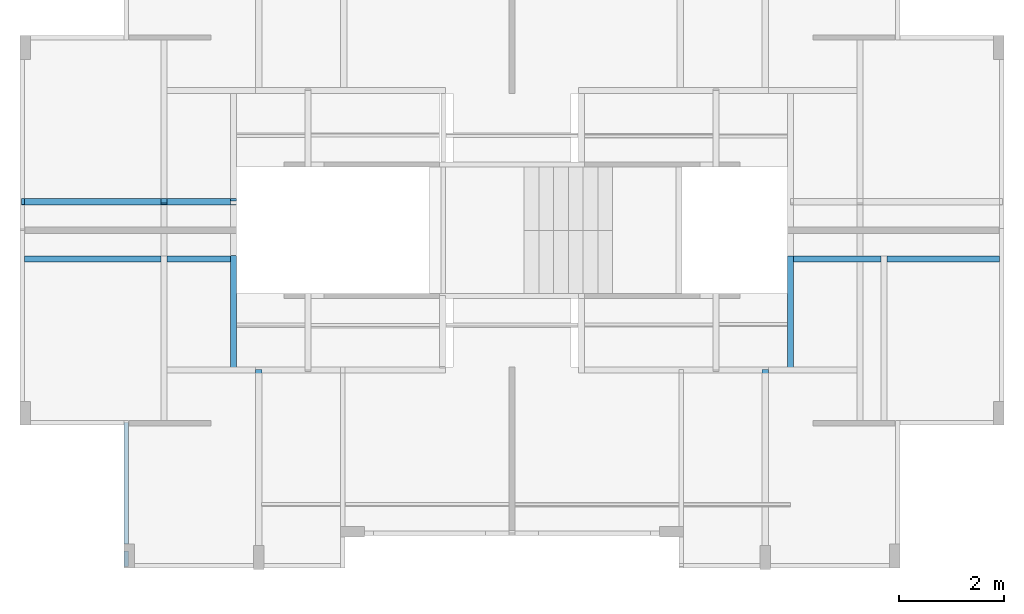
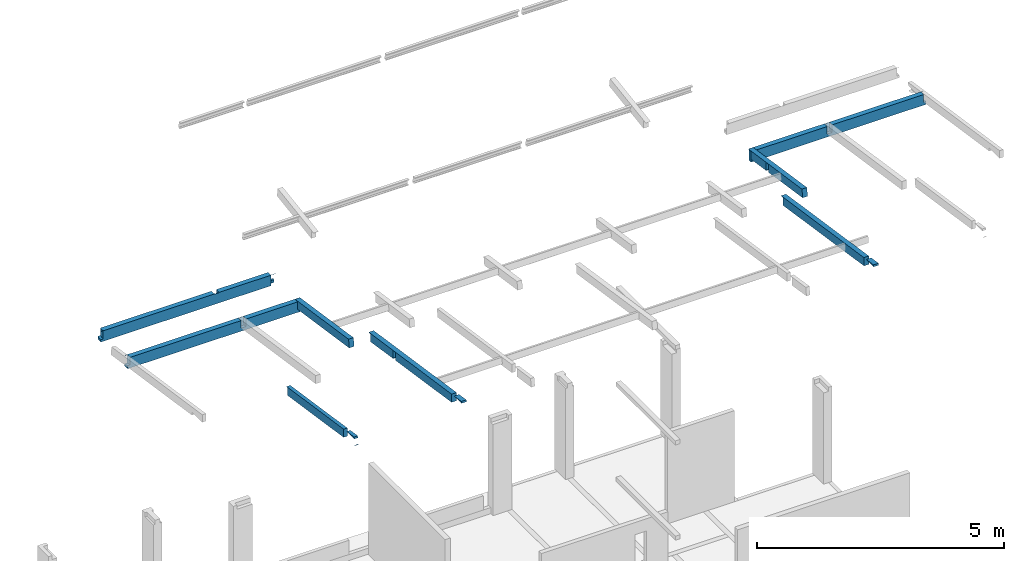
# One storey, part 8 of 9: 8 beams.
"""IFC4 building model written with IfcOpenShell, lengths in metres."""

from ifc_helpers import new_model, entity, si_unit, converted_unit, derived_unit, direction, frame, origin, place, context, subcontext, project, spatial, polygons, source, transform, mapped, material, type_object, type_shapes, element, save


model = new_model("IFC4")

# Units and contexts
model_context = context("Model", 3, precision=1e-05, world=origin(), true_north=direction((6.123031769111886e-17, 1.0)))
body_context = subcontext(model_context, "Body", "Model", "MODEL_VIEW")
ifc_project = project(units=[si_unit("LENGTHUNIT", "METRE"), si_unit("AREAUNIT", "SQUARE_METRE"), si_unit("VOLUMEUNIT", "CUBIC_METRE"), converted_unit("PLANEANGLEUNIT", "DEGREE", entity("IfcRatioMeasure", 0.017453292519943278), si_unit("PLANEANGLEUNIT", "RADIAN"), dimensions=[0, 0, 0, 0, 0, 0, 0]), si_unit("MASSUNIT", "GRAM", prefix="KILO"), derived_unit("MASSDENSITYUNIT", [(si_unit("MASSUNIT", "GRAM", prefix="KILO"), 1), (si_unit("LENGTHUNIT", "METRE"), -3)]), derived_unit("IONCONCENTRATIONUNIT", [(si_unit("MASSUNIT", "GRAM", prefix="KILO"), 1), (si_unit("LENGTHUNIT", "METRE"), -3)]), derived_unit("MOMENTOFINERTIAUNIT", [(si_unit("LENGTHUNIT", "METRE"), 4)]), si_unit("TIMEUNIT", "SECOND"), si_unit("FREQUENCYUNIT", "HERTZ"), si_unit("THERMODYNAMICTEMPERATUREUNIT", "DEGREE_CELSIUS"), derived_unit("THERMALTRANSMITTANCEUNIT", [(si_unit("MASSUNIT", "GRAM", prefix="KILO"), 1), (si_unit("THERMODYNAMICTEMPERATUREUNIT", "KELVIN"), -1), (si_unit("TIMEUNIT", "SECOND"), -3)]), derived_unit("THERMALCONDUCTANCEUNIT", [(si_unit("MASSUNIT", "GRAM", prefix="KILO"), 1), (si_unit("THERMODYNAMICTEMPERATUREUNIT", "KELVIN"), -1), (si_unit("TIMEUNIT", "SECOND"), -3), (si_unit("LENGTHUNIT", "METRE"), 1)]), derived_unit("VOLUMETRICFLOWRATEUNIT", [(si_unit("LENGTHUNIT", "METRE"), 3), (si_unit("TIMEUNIT", "SECOND"), -1)]), derived_unit("MASSFLOWRATEUNIT", [(si_unit("MASSUNIT", "GRAM", prefix="KILO"), 1), (si_unit("TIMEUNIT", "SECOND"), -1)]), derived_unit("ROTATIONALFREQUENCYUNIT", [(si_unit("TIMEUNIT", "SECOND"), -1)]), si_unit("ELECTRICCURRENTUNIT", "AMPERE"), si_unit("ELECTRICVOLTAGEUNIT", "VOLT"), si_unit("POWERUNIT", "WATT"), si_unit("FORCEUNIT", "NEWTON", prefix="KILO"), si_unit("ILLUMINANCEUNIT", "LUX"), si_unit("LUMINOUSFLUXUNIT", "LUMEN"), si_unit("LUMINOUSINTENSITYUNIT", "CANDELA"), derived_unit("USERDEFINED", [(si_unit("MASSUNIT", "GRAM", prefix="KILO"), -1), (si_unit("LENGTHUNIT", "METRE"), -2), (si_unit("TIMEUNIT", "SECOND"), 3), (si_unit("LUMINOUSFLUXUNIT", "LUMEN"), 1)]), derived_unit("USERDEFINED", [(si_unit("MASSUNIT", "GRAM", prefix="KILO"), 1), (si_unit("TIMEUNIT", "SECOND"), -3), (si_unit("LENGTHUNIT", "METRE"), 3), (si_unit("ELECTRICCURRENTUNIT", "AMPERE"), -2)]), derived_unit("SOUNDPOWERUNIT", [(si_unit("MASSUNIT", "GRAM", prefix="KILO"), 1), (si_unit("TIMEUNIT", "SECOND"), -3), (si_unit("LENGTHUNIT", "METRE"), 2)]), derived_unit("SOUNDPRESSUREUNIT", [(si_unit("MASSUNIT", "GRAM", prefix="KILO"), 1), (si_unit("LENGTHUNIT", "METRE"), -1), (si_unit("TIMEUNIT", "SECOND"), -2)]), derived_unit("LINEARVELOCITYUNIT", [(si_unit("LENGTHUNIT", "METRE"), 1), (si_unit("TIMEUNIT", "SECOND"), -1)]), si_unit("PRESSUREUNIT", "PASCAL"), derived_unit("USERDEFINED", [(si_unit("MASSUNIT", "GRAM", prefix="KILO"), 1), (si_unit("LENGTHUNIT", "METRE"), -2), (si_unit("TIMEUNIT", "SECOND"), -2)]), derived_unit("LINEARFORCEUNIT", [(si_unit("MASSUNIT", "GRAM", prefix="KILO"), 1), (si_unit("TIMEUNIT", "SECOND"), -2)]), derived_unit("PLANARFORCEUNIT", [(si_unit("MASSUNIT", "GRAM", prefix="KILO"), 1), (si_unit("LENGTHUNIT", "METRE"), -1), (si_unit("TIMEUNIT", "SECOND"), -2)]), derived_unit("SPECIFICHEATCAPACITYUNIT", [(si_unit("THERMODYNAMICTEMPERATUREUNIT", "KELVIN"), -1), (si_unit("LENGTHUNIT", "METRE"), 2), (si_unit("TIMEUNIT", "SECOND"), -2)]), derived_unit("HEATINGVALUEUNIT", [(si_unit("LENGTHUNIT", "METRE"), 2), (si_unit("TIMEUNIT", "SECOND"), -2)]), derived_unit("VAPORPERMEABILITYUNIT", [(si_unit("LENGTHUNIT", "METRE"), -1), (si_unit("TIMEUNIT", "SECOND"), 1)]), derived_unit("DYNAMICVISCOSITYUNIT", [(si_unit("MASSUNIT", "GRAM", prefix="KILO"), 1), (si_unit("TIMEUNIT", "SECOND"), -1), (si_unit("LENGTHUNIT", "METRE"), -1)]), derived_unit("THERMALEXPANSIONCOEFFICIENTUNIT", [(si_unit("THERMODYNAMICTEMPERATUREUNIT", "KELVIN"), -1)]), derived_unit("MODULUSOFELASTICITYUNIT", [(si_unit("MASSUNIT", "GRAM", prefix="KILO"), 1), (si_unit("LENGTHUNIT", "METRE"), -1), (si_unit("TIMEUNIT", "SECOND"), -2)]), derived_unit("ISOTHERMALMOISTURECAPACITYUNIT", [(si_unit("LENGTHUNIT", "METRE"), 3), (si_unit("MASSUNIT", "GRAM", prefix="KILO"), -1)]), derived_unit("MOISTUREDIFFUSIVITYUNIT", [(si_unit("TIMEUNIT", "SECOND"), -1), (si_unit("LENGTHUNIT", "METRE"), 2)])], contexts=[model_context])

# Site, building, storey
site_placement = place(None, origin())
site = spatial("IfcSite", under=ifc_project, at=site_placement, Name="Default", CompositionType="ELEMENT")
building_placement = place(site_placement, origin())
building = spatial("IfcBuilding", under=site, at=building_placement, Name="Las nubes", CompositionType="ELEMENT")
storey_placement = place(building_placement, frame((0.0, 0.0, 2.3500000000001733)))
storey = spatial("IfcBuildingStorey", under=building, at=storey_placement, Name="PISO 2", CompositionType="ELEMENT", Elevation=2.3500000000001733)

# Beams
ifc_material = material(Name="Concrete, Cast In Situ", Category="Materials")
beam_type_1 = type_object("IfcBeamType", Name="M_Concrete-Rectangular Beam:(0.115x0.20)", PredefinedType="BEAM", material=ifc_material)
shared_shape_1 = source(origin(), body_context, "Body", "Tessellation", [
    polygons([(0.11659527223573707, 0.029668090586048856, 0.0), (0.0015952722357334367, 0.02966809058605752, 0.0), (0.0015952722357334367, 9.745804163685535e-15, -0.19778727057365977), (0.11659527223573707, 0.0, -0.19778727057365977), (0.11659527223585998, 1.4871680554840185, -0.2186249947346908), (0.11659527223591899, 2.194668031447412, -0.3247499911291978), (0.0015952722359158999, 2.1946680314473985, -0.3247499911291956), (0.11659527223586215, 1.4871680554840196, -0.4186499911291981), (0.11659527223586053, 1.4724181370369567, -0.4186499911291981), (0.1165952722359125, 2.087168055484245, -0.5108624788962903), (0.11659527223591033, 2.087168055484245, -0.3247499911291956), (0.0015952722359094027, 2.0871680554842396, -0.5108624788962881), (0.05909527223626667, 1.4724181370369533, -0.4186499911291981), (0.05909527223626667, 1.387168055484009, -0.4058624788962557), (0.11659527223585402, 1.3871680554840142, -0.40586247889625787), (0.001595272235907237, 2.087168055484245, -0.3247499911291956), (0.05909527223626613, 1.4871680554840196, -0.21864999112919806), (0.05909527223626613, 1.3871680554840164, -0.21864999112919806), (0.05909527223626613, 1.4871680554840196, -0.4186499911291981), (0.11659527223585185, 1.3871680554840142, -0.21864999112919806)], [[[3, 4, 1, 2]], [[7, 2, 1, 5, 6]], [[6, 5, 8, 9, 10, 11]], [[13, 19, 17, 18, 14]], [[5, 1, 4, 15, 20]], [[15, 4, 3, 12, 10, 9, 13, 14]], [[12, 3, 2, 7, 16]], [[5, 20, 17]], [[18, 17, 20]], [[6, 11, 16, 7]], [[8, 5, 17, 19]], [[9, 8, 19, 13]], [[20, 15, 14, 18]], [[11, 10, 12, 16]]], closed=True),
    polygons([(0.0015952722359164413, 2.203128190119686, -0.32604999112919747), (0.059095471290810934, 2.2033346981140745, -0.32604999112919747), (0.11659527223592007, 2.2031281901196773, -0.32604999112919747), (0.11659527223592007, 2.202168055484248, -0.32604999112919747), (0.0015952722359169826, 2.202168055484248, -0.32604999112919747), (0.11659527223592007, 2.202168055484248, -0.3258749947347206), (0.0015952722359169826, 2.202168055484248, -0.32587499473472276)], [[[5, 1, 2, 3, 4]], [[4, 6, 7, 5]], [[1, 7, 2]], [[2, 6, 3]], [[6, 2, 7]], [[5, 7, 1]], [[6, 4, 3]]], closed=True),
])
type_shapes(beam_type_1, [shared_shape_1])
beam_1_placement = place(storey_placement, frame((3.970904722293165, -9.112168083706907, 12.234749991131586)))
element("IfcBeam", 1, at=beam_1_placement, inside=storey, type_object=beam_type_1, material=ifc_material, Name="M_Concrete-Rectangular Beam:(0.115x0.20)", ObjectType="M_Concrete-Rectangular Beam:(0.115x0.20)", PredefinedType="BEAM", context=body_context, shape_type="MappedRepresentation", body=[
    mapped(shared_shape_1, transform((0.0, 0.0, 0.0), scale=1.0)),
])
beam_type_2 = type_object("IfcBeamType", Name="M_Concrete-Rectangular Beam:(0.115x0.20)", PredefinedType="BEAM", material=ifc_material)
shared_shape_2 = source(origin(), body_context, "Body", "Tessellation", [
    polygons([(0.11500000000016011, 0.029668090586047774, 2.1657342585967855e-15), (1.5593286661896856e-13, 0.029668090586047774, 2.1657342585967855e-15), (1.5593286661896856e-13, 1.0828671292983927e-15, -0.1977872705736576), (0.11500000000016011, -1.0828671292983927e-15, -0.1977872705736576), (1.6459580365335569e-13, 1.3871680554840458, -0.4058624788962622), (0.057499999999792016, 1.3871680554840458, -0.4058624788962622), (0.057499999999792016, 1.4724181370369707, -0.4186499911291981), (1.6459580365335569e-13, 1.4724181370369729, -0.4186499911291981), (1.6892727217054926e-13, 2.0871680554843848, -0.5108624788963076), (0.11500000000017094, 2.0871680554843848, -0.5108624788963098), (1.1261818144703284e-13, 2.0871680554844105, -0.32474999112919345), (0.1150000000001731, 2.0871680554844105, -0.3247499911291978), (1.6892727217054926e-13, 2.194668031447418, -0.3247499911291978), (0.1150000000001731, 2.1946680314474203, -0.3247499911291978), (1.6459580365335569e-13, 1.487168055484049, -0.21862999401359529), (1.6459580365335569e-13, 1.487168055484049, -0.4186499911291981), (0.057499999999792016, 1.487168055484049, -0.21864999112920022), (0.057499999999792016, 1.487168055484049, -0.4186499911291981), (0.057499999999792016, 1.3871680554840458, -0.21864999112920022), (1.6459580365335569e-13, 1.3871680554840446, -0.21864999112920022)], [[[1, 2, 3, 4]], [[4, 3, 5, 6, 7, 8, 9, 10]], [[10, 9, 11, 12]], [[13, 14, 12, 11]], [[2, 1, 14, 13, 15]], [[1, 4, 10, 12, 14]], [[13, 11, 9, 8, 16, 15]], [[17, 18, 7, 6, 19]], [[17, 19, 20, 15]], [[18, 17, 15, 16]], [[7, 18, 16, 8]], [[19, 6, 5, 20]], [[3, 2, 15, 20, 5]]], closed=True),
    polygons([(1.6892727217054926e-13, 2.2030682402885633, -0.32601002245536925), (0.1150000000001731, 2.2030682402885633, -0.32601002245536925), (0.1150000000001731, 2.202168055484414, -0.33201125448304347), (1.6892727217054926e-13, 2.202168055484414, -0.332011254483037), (1.6892727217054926e-13, 2.202168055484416, -0.3258749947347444), (0.1150000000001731, 2.2021680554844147, -0.32587499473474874), (1.6892727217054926e-13, 2.2021680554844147, -0.32604999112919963)], [[[1, 2, 3, 4]], [[2, 1, 5, 6]], [[3, 2, 6]], [[1, 4, 7, 5]], [[4, 3, 6, 5, 7]]], closed=True),
])
type_shapes(beam_type_2, [shared_shape_2])
beam_2_placement = place(storey_placement, frame((14.557500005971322, -9.112168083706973, 12.234749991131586)))
element("IfcBeam", 2, at=beam_2_placement, inside=storey, type_object=beam_type_2, material=ifc_material, Name="M_Concrete-Rectangular Beam:(0.115x0.20)", ObjectType="M_Concrete-Rectangular Beam:(0.115x0.20)", PredefinedType="BEAM", context=body_context, shape_type="MappedRepresentation", body=[
    mapped(shared_shape_2, transform((0.0, 0.0, 0.0), scale=1.0)),
])
beam_type_3 = type_object("IfcBeamType", Name="M_Concrete-Rectangular Beam:(0.115x0.26)", PredefinedType="BEAM", material=ifc_material)
shared_shape_3 = source(origin(), body_context, "Body", "Tessellation", [
    polygons([(2.1657342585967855e-15, 4.2231818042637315e-14, 0.2599999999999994), (2.1657342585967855e-15, 0.10749997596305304, 0.2599999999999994), (2.1657342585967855e-15, 0.11500000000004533, 0.2599999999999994), (2.1657342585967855e-15, 0.11500000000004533, 0.2588749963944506), (2.1657342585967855e-15, 0.11500000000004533, 0.2586999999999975), (5.84748249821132e-14, 0.07750000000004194, 0.2586999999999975), (2.1657342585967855e-15, 0.07750000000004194, -2.1657342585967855e-15), (2.1657342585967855e-15, 4.2231818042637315e-14, -2.1657342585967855e-15), (2.1657342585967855e-15, 4.2231818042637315e-14, 0.07388751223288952), (4.087499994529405, 2.1657342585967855e-15, -2.1657342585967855e-15), (4.087499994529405, 0.11500000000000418, -2.1657342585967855e-15), (4.087499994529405, 0.1150000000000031, 0.05663751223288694), (4.087499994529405, 2.1657342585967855e-15, 0.07388751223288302), (0.11500000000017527, 4.114895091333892e-14, 0.2599999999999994), (1.7774989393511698, 2.382307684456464e-14, 0.2599999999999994), (1.7774989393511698, 0.10749997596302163, 0.2599999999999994), (1.892498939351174, 0.10749997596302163, 0.2599999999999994), (1.892498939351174, 2.1657342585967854e-14, 0.2599999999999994), (4.029999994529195, 2.1657342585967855e-15, 0.2599999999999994), (4.029999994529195, 0.10749997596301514, 0.2599999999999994), (4.087499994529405, 0.1074999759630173, 0.2599999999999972), (4.087499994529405, 0.11500000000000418, 0.2599999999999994), (4.087499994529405, 0.1150000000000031, 0.25887499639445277), (4.029999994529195, 0.11500000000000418, 0.25887499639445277), (4.029999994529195, 0.11500000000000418, 0.05663751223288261), (0.11500000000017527, 0.11500000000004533, -2.1657342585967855e-15), (0.11500000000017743, 0.11500000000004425, 0.09999999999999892), (0.11500000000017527, 0.11500000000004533, 0.2586999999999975), (1.7774989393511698, 0.115000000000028, 0.2527387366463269), (1.892498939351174, 0.11500000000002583, 0.2527387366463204), (1.892498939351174, 0.11500000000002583, 0.2588749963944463), (1.7774989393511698, 0.115000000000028, 0.25887499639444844), (0.11500000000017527, 0.07750000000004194, -2.1657342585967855e-15), (4.029999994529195, 0.0, 0.07388751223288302), (1.892498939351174, 2.1657342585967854e-14, 0.07388751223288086), (1.7774989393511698, 2.4905943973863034e-14, 0.07388751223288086), (1.7774989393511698, 0.08623209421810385, 0.060952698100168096), (1.892498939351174, 0.08623209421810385, 0.060952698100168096), (1.892498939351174, 0.0920891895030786, 0.09999999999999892), (1.7774989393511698, 0.0920891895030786, 0.09999999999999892), (0.11500000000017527, 0.07750000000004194, 0.2586999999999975)], [[[1, 2, 3, 4, 5, 6, 7, 8, 9]], [[10, 11, 12, 13]], [[3, 2, 1, 14, 15, 16, 17, 18, 19, 20, 21, 22]], [[3, 22, 23, 24, 25, 12, 11, 26, 27, 28, 5, 4], [29, 30, 31, 32]], [[11, 10, 8, 7, 33, 26]], [[1, 9, 8, 10, 13, 34, 19, 18, 35, 36, 15, 14]], [[37, 38, 39, 30, 29, 40]], [[16, 32, 31, 17]], [[30, 39, 38, 35, 18, 17, 31]], [[38, 37, 36, 35]], [[37, 40, 29, 32, 16, 15, 36]], [[20, 24, 23, 21]], [[12, 25, 34, 13]], [[24, 20, 19, 34, 25]], [[6, 41, 33, 7]], [[41, 6, 5, 28]], [[33, 41, 28, 27, 26]], [[21, 23, 22]]], closed=True),
])
type_shapes(beam_type_3, [shared_shape_3])
beam_3_placement = place(storey_placement, frame((14.557500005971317, -7.025000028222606, 11.649999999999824)))
element("IfcBeam", 3, at=beam_3_placement, inside=storey, type_object=beam_type_3, material=ifc_material, Name="M_Concrete-Rectangular Beam:(0.115x0.26)", ObjectType="M_Concrete-Rectangular Beam:(0.115x0.26)", PredefinedType="BEAM", context=body_context, shape_type="MappedRepresentation", body=[
    mapped(shared_shape_3, transform((0.0, 0.0, 0.0), scale=1.0)),
])
beam_type_4 = type_object("IfcBeamType", Name="M_Concrete-Rectangular Beam:(0.115x0.26)", PredefinedType="BEAM", material=ifc_material)
shared_shape_4 = source(origin(), body_context, "Body", "Tessellation", [
    polygons([(4.087499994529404, 0.07249999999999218, -2.1657342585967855e-15), (4.087499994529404, 0.11500000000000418, -2.1657342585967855e-15), (4.087499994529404, 0.11500000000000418, 0.073887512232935), (4.087499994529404, 0.07249999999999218, 0.06751251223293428), (4.845584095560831e-16, 0.11500000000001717, -2.1657342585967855e-15), (2.373530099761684e-16, 1.4077272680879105e-14, -2.1657342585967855e-15), (4.17830864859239e-16, 1.4077272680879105e-14, 0.05663751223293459), (6.650362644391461e-16, 0.11500000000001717, 0.07388751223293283), (2.373530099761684e-16, 1.4077272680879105e-14, 0.2599999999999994), (4.087499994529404, 1.0828671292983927e-15, 0.2599999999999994), (4.087499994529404, 0.007500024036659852, 0.2599999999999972), (3.9724999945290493, 0.007500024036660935, 0.2599999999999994), (3.972499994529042, 0.11500000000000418, 0.2599999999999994), (2.767501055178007, 0.11500000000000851, 0.2599999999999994), (2.7675010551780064, 0.007500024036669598, 0.2599999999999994), (2.652501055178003, 0.007500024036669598, 0.2599999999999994), (2.652501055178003, 0.11500000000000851, 0.2599999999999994), (0.05750000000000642, 0.11500000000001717, 0.2599999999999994), (0.05750000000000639, 0.007500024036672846, 0.2599999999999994), (7.299729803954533e-17, 0.007500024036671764, 0.2599999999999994), (2.373530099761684e-16, 1.4077272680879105e-14, 0.2588749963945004), (0.05750000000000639, 1.4077272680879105e-14, 0.2588749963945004), (0.05750000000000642, 1.4077272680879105e-14, 0.09999999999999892), (0.05750000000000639, 1.4077272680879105e-14, 0.05663751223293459), (3.9724999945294, 1.0828671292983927e-15, -2.1657342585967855e-15), (3.9724999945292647, 1.0828671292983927e-15, 0.09999999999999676), (3.9724999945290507, 1.0828671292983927e-15, 0.2588749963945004), (4.087499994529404, 1.0828671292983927e-15, 0.25887499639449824), (2.7675010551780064, 5.4143356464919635e-15, 0.25239677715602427), (2.6525010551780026, 5.4143356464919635e-15, 0.25239677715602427), (2.652501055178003, 5.4143356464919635e-15, 0.2588749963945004), (2.7675010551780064, 5.4143356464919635e-15, 0.2588749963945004), (3.9724999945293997, 0.07249999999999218, -2.1657342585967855e-15), (0.05750000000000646, 0.11500000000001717, 0.07388751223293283), (2.652501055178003, 0.11500000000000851, 0.073887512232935), (2.767501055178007, 0.11500000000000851, 0.07388751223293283), (3.972499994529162, 0.11500000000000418, 0.073887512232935), (2.7675010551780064, 0.0287177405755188, 0.06094517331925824), (2.6525010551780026, 0.028717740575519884, 0.06094517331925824), (2.6525010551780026, 0.022859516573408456, 0.09999999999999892), (2.7675010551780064, 0.022859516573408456, 0.09999999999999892), (3.9724999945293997, 0.07249999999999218, 0.06751251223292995)], [[[1, 2, 3, 4]], [[5, 6, 7, 8]], [[9, 10, 11, 12, 13, 14, 15, 16, 17, 18, 19, 20]], [[10, 9, 21, 22, 23, 24, 7, 6, 25, 26, 27, 28], [29, 30, 31, 32]], [[6, 5, 2, 1, 33, 25]], [[2, 5, 8, 34, 18, 17, 35, 36, 14, 13, 37, 3]], [[19, 22, 21, 20]], [[22, 19, 18, 34, 24, 23]], [[7, 24, 34, 8]], [[38, 39, 40, 30, 29, 41]], [[31, 16, 15, 32]], [[38, 41, 29, 32, 15, 14, 36]], [[39, 38, 36, 35]], [[30, 40, 39, 35, 17, 16, 31]], [[33, 1, 4, 42]], [[25, 33, 42, 37, 13, 12, 27, 26]], [[27, 12, 11, 28]], [[37, 42, 4, 3]], [[11, 10, 28]], [[20, 21, 9]]], closed=True),
])
type_shapes(beam_type_4, [shared_shape_4])
beam_4_placement = place(storey_placement, frame((0.0, -5.94000002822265, 11.649999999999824)))
element("IfcBeam", 4, at=beam_4_placement, inside=storey, type_object=beam_type_4, material=ifc_material, Name="M_Concrete-Rectangular Beam:(0.115x0.26)", ObjectType="M_Concrete-Rectangular Beam:(0.115x0.26)", PredefinedType="BEAM", context=body_context, shape_type="MappedRepresentation", body=[
    mapped(shared_shape_4, transform((0.0, 0.0, 0.0), scale=1.0)),
])
beam_type_5 = type_object("IfcBeamType", Name="M_Concrete-Rectangular Beam:(0.115x0.26)", PredefinedType="BEAM", material=ifc_material)
shared_shape_5 = source(origin(), body_context, "Body", "Tessellation", [
    polygons([(4.087795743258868, 0.1150000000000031, 0.2599999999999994), (4.087795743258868, -1.0828671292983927e-15, 0.2599999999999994), (4.087795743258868, -1.0828671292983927e-15, -2.1657342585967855e-15), (4.087795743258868, 0.1150000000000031, -2.1657342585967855e-15), (8.643794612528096e-16, 0.11500000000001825, -2.1657342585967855e-15), (5.794433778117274e-16, 1.5160139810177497e-14, -2.1657342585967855e-15), (3.989655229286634e-16, 1.5160139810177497e-14, 0.07388751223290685), (8.643794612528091e-16, 0.11500000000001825, 0.0566375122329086), (8.643794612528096e-16, 0.11500000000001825, 0.2599999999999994), (1.0262744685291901e-15, 0.10749997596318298, 0.2599999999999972), (0.057500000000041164, 0.10749997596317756, 0.2599999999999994), (0.05750000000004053, 1.5160139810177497e-14, 0.2599999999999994), (2.6525010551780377, 5.4143356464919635e-15, 0.2599999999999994), (2.652501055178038, 0.10749997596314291, 0.2599999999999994), (2.7675010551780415, 0.10749997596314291, 0.2599999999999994), (2.767501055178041, 5.4143356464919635e-15, 0.2599999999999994), (3.9724999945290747, 0.0, 0.2599999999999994), (4.087499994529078, 0.0, 0.2599999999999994), (4.0874999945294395, 0.1150000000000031, 0.0), (3.9724999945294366, 0.1150000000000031, 0.0), (0.05750000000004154, 0.11500000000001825, 0.0566375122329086), (0.057500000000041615, 0.11500000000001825, 0.09999999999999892), (0.05750000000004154, 0.11500000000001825, 0.25887499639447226), (8.643794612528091e-16, 0.11500000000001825, 0.25887499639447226), (2.652501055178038, 0.11500000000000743, 0.25239677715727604), (2.7675010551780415, 0.11500000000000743, 0.25239677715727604), (2.7675010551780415, 0.11500000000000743, 0.2588749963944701), (2.652501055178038, 0.11500000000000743, 0.2588749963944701), (2.767501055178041, 5.4143356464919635e-15, 0.07388751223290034), (2.652501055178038, 5.4143356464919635e-15, 0.07388751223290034), (0.05750000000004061, 1.5160139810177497e-14, 0.07388751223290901), (2.6525010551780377, 0.08628225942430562, 0.06094517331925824), (2.7675010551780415, 0.08628225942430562, 0.06094517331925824), (2.7675010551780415, 0.09214048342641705, 0.09999999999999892), (2.6525010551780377, 0.09214048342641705, 0.09999999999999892)], [[[1, 2, 3, 4]], [[5, 6, 7, 8]], [[2, 1, 9, 10, 11, 12, 13, 14, 15, 16, 17, 18]], [[1, 4, 19, 20, 5, 8, 21, 22, 23, 24, 9], [25, 26, 27, 28]], [[4, 3, 6, 5, 20, 19]], [[3, 2, 18, 17, 16, 29, 30, 13, 12, 31, 7, 6]], [[23, 11, 10, 24]], [[12, 11, 23, 22, 21, 31]], [[21, 8, 7, 31]], [[32, 33, 34, 26, 25, 35]], [[14, 28, 27, 15]], [[26, 34, 33, 29, 16, 15, 27]], [[33, 32, 30, 29]], [[32, 35, 25, 28, 14, 13, 30]], [[24, 10, 9]]], closed=True),
])
type_shapes(beam_type_5, [shared_shape_5])
beam_5_placement = place(storey_placement, frame((0.0, -7.02500002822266, 11.649999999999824)))
element("IfcBeam", 5, at=beam_5_placement, inside=storey, type_object=beam_type_5, material=ifc_material, Name="M_Concrete-Rectangular Beam:(0.115x0.26)", ObjectType="M_Concrete-Rectangular Beam:(0.115x0.26)", PredefinedType="BEAM", context=body_context, shape_type="MappedRepresentation", body=[
    mapped(shared_shape_5, transform((0.0, 0.0, 0.0), scale=1.0)),
])
beam_type_6 = type_object("IfcBeamType", Name="M_Concrete-Rectangular Beam:(0.115x0.20)", PredefinedType="BEAM", material=ifc_material)
shared_shape_6 = source(origin(), body_context, "Body", "Tessellation", [
    polygons([(0.11500000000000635, 0.006637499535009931, 0.0), (2.1657342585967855e-15, 0.006637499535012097, 0.0), (2.1657342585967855e-15, 0.0, -0.04424999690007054), (0.11500000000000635, 0.0, -0.04424999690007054), (6.497202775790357e-15, 0.3016374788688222, -0.04424999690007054), (0.11500000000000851, 0.30163747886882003, -0.04424999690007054)], [[[1, 2, 3, 4]], [[4, 3, 5, 6]], [[2, 1, 6, 5]], [[3, 2, 5]], [[1, 4, 6]]], closed=True),
    polygons([(2.382307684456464e-14, 3.751471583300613, -0.5617251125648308), (0.11500000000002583, 3.751471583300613, -0.5617251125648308), (0.11500000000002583, 3.7505228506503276, -0.5680499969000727), (2.382307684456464e-14, 3.7505228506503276, -0.5680499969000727), (6.497202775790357e-15, 0.39913749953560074, -0.05887500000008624), (0.11500000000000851, 0.39913749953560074, -0.05887500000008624), (0.1150000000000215, 2.779137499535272, -0.4158899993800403), (0.11500000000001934, 2.779137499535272, -0.6159499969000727), (0.11500000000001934, 2.7647209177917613, -0.6159499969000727), (0.11500000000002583, 3.67913753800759, -0.7531124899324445), (0.11500000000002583, 3.67913753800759, -0.5680499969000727), (0.05750000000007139, 2.7647209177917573, -0.6159499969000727), (0.05750000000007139, 2.6791374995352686, -0.6031124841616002), (0.11500000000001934, 2.6791374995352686, -0.6031124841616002), (0.11500000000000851, 0.39913749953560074, -0.2611124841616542), (6.497202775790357e-15, 0.39913749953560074, -0.2611124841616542), (2.382307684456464e-14, 3.67913753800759, -0.7531124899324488), (2.382307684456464e-14, 3.67913753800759, -0.5680499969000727), (0.05750000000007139, 2.779137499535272, -0.41594999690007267), (0.11500000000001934, 2.6791374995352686, -0.41594999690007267), (0.05750000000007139, 2.6791374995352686, -0.41594999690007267), (0.05750000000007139, 2.779137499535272, -0.6159499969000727)], [[[1, 2, 3, 4]], [[2, 1, 5, 6, 7]], [[7, 8, 9, 10, 11, 3, 2]], [[9, 12, 13, 14, 15, 16, 17, 10]], [[1, 4, 18, 17, 16, 5]], [[19, 7, 20, 21]], [[7, 19, 22, 8]], [[8, 22, 12, 9]], [[21, 20, 14, 13]], [[20, 7, 6, 15, 14]], [[4, 3, 11, 18]], [[10, 17, 18, 11]], [[19, 21, 13, 12, 22]], [[6, 5, 16, 15]]], closed=True),
])
type_shapes(beam_type_6, [shared_shape_6])
beam_6_placement = place(storey_placement, frame((14.077500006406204, -12.819137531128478, 12.794249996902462)))
element("IfcBeam", 6, at=beam_6_placement, inside=storey, type_object=beam_type_6, material=ifc_material, Name="M_Concrete-Rectangular Beam:(0.115x0.20)", ObjectType="M_Concrete-Rectangular Beam:(0.115x0.20)", PredefinedType="BEAM", context=body_context, shape_type="MappedRepresentation", body=[
    mapped(shared_shape_6, transform((0.0, 0.0, 0.0), scale=1.0)),
])
beam_type_7 = type_object("IfcBeamType", Name="M_Concrete-Rectangular Beam:(0.115x0.20)", PredefinedType="BEAM", material=ifc_material)
shared_shape_7 = source(origin(), body_context, "Body", "Tessellation", [
    polygons([(0.11500000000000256, 0.006637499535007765, -2.1657342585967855e-15), (0.0, 0.006637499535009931, -2.1657342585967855e-15), (0.0, -2.1657342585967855e-15, -0.044249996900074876), (0.11500000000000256, -2.1657342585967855e-15, -0.044249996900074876), (1.6243006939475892e-15, 0.30163747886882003, -0.044249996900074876), (0.11500000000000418, 0.3016374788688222, -0.044249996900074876)], [[[1, 2, 3, 4]], [[4, 3, 5, 6]], [[2, 1, 6, 5]], [[1, 4, 6]], [[3, 2, 5]]], closed=True),
    polygons([(1.3535839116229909e-14, 3.751471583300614, -0.561725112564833), (0.11500000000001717, 3.751471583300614, -0.561725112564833), (0.11500000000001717, 3.7505228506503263, -0.5680499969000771), (1.3535839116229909e-14, 3.7505228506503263, -0.5680499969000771), (1.028723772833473e-14, 2.7791374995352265, -0.4158899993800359), (1.6243006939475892e-15, 0.3991374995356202, -0.0588750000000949), (0.11500000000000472, 0.3991374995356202, -0.05887500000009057), (0.11500000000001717, 3.679137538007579, -0.568049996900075), (0.11500000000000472, 0.3991374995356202, -0.2611124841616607), (0.11500000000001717, 3.679137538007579, -0.7531124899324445), (0.05750000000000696, 2.764720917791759, -0.6159499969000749), (1.028723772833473e-14, 2.764720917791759, -0.6159499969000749), (1.3535839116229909e-14, 3.679137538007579, -0.7531124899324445), (1.6243006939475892e-15, 0.3991374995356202, -0.2611124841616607), (1.028723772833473e-14, 2.679137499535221, -0.6031124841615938), (0.05750000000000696, 2.679137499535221, -0.6031124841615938), (1.3535839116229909e-14, 3.679137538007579, -0.568049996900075), (1.028723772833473e-14, 2.7791374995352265, -0.6159499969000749), (0.05750000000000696, 2.7791374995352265, -0.41594999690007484), (0.05750000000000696, 2.6791374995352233, -0.41594999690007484), (1.028723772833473e-14, 2.6791374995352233, -0.41594999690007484), (0.05750000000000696, 2.7791374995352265, -0.6159499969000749)], [[[1, 2, 3, 4]], [[2, 1, 5, 6, 7]], [[8, 3, 2, 7, 9, 10]], [[11, 12, 13, 10, 9, 14, 15, 16]], [[5, 1, 4, 17, 13, 12, 18]], [[5, 19, 20, 21]], [[19, 5, 18, 22]], [[22, 18, 12, 11]], [[21, 20, 16, 15]], [[5, 21, 15, 14, 6]], [[8, 17, 4, 3]], [[17, 8, 10, 13]], [[19, 22, 11, 16, 20]], [[7, 6, 14, 9]]], closed=True),
])
type_shapes(beam_type_7, [shared_shape_7])
beam_7_placement = place(storey_placement, frame((4.452499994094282, -12.81913753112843, 12.794249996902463)))
element("IfcBeam", 7, at=beam_7_placement, inside=storey, type_object=beam_type_7, material=ifc_material, Name="M_Concrete-Rectangular Beam:(0.115x0.20)", ObjectType="M_Concrete-Rectangular Beam:(0.115x0.20)", PredefinedType="BEAM", context=body_context, shape_type="MappedRepresentation", body=[
    mapped(shared_shape_7, transform((0.0, 0.0, 0.0), scale=1.0)),
])
beam_type_8 = type_object("IfcBeamType", Name="M_Concrete-Rectangular Beam:(0.085x0.20)", PredefinedType="BEAM", material=ifc_material)
shared_shape_8 = source(origin(), body_context, "Body", "Tessellation", [
    polygons([(2.544737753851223e-14, -2.1657342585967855e-15, -0.19778727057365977), (0.08500000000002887, -2.1657342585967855e-15, -0.19778727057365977), (0.08500000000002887, 0.002168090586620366, -0.1833333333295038), (2.544737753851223e-14, 0.002168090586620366, -0.18333333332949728), (2.544737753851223e-14, 0.0021680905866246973, -0.1981124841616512), (0.08500000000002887, 0.002168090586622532, -0.1981124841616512)], [[[1, 2, 3, 4]], [[2, 1, 5, 6]], [[1, 4, 5]], [[4, 3, 6, 5]], [[3, 2, 6]]], closed=True),
    polygons([(2.707167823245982e-16, 2.7596680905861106, -0.40950000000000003), (0.08500000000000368, 2.759668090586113, -0.40950000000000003), (0.08500000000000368, 2.7587005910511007, -0.41594999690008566), (2.707167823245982e-16, 2.7587005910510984, -0.41594999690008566), (8.121503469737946e-16, 2.717168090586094, -0.4159499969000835), (0.08500000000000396, 2.702168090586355, -0.4159499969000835), (0.0274999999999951, 2.702168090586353, -0.4159499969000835), (0.027499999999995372, 2.717168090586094, -0.4159499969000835), (2.707167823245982e-16, 2.717168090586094, -0.6053624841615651), (0.027499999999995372, 2.7171680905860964, -0.6053624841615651), (0.08500000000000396, 2.702168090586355, -0.6031124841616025), (0.0274999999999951, 2.702168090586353, -0.6031124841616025), (0.0850000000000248, 0.4521680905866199, -0.06337500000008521), (2.1928059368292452e-14, 0.4521680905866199, -0.06337500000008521), (2.1386625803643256e-14, 0.4521680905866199, -0.265612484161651), (0.08500000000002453, 0.4521680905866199, -0.2656124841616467)], [[[1, 2, 3, 4]], [[5, 4, 3, 6, 7, 8]], [[9, 5, 8, 10]], [[7, 6, 11, 12]], [[8, 7, 12, 10]], [[13, 14, 15, 16]], [[2, 1, 14, 13]], [[11, 6, 3, 2, 13, 16]], [[12, 11, 16, 15, 9, 10]], [[4, 5, 9, 15, 14, 1]]], closed=True),
    polygons([(2.544737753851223e-14, 0.02966809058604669, 2.1657342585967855e-15), (0.08500000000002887, 0.02966809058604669, 2.1657342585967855e-15), (0.08500000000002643, 0.32466806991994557, -0.04424999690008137), (2.246949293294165e-14, 0.32466806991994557, -0.04424999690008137), (0.08500000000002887, 0.023030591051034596, -0.044249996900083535), (2.544737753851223e-14, 0.023030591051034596, -0.044249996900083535)], [[[1, 2, 3, 4]], [[2, 5, 3]], [[5, 6, 4, 3]], [[2, 1, 6, 5]], [[6, 1, 4]]], closed=True),
])
type_shapes(beam_type_8, [shared_shape_8])
beam_8_placement = place(storey_placement, frame((1.9474999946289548, -12.842168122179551, 12.794249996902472)))
element("IfcBeam", 8, at=beam_8_placement, inside=storey, type_object=beam_type_8, material=ifc_material, Name="M_Concrete-Rectangular Beam:(0.085x0.20)", ObjectType="M_Concrete-Rectangular Beam:(0.085x0.20)", PredefinedType="BEAM", context=body_context, shape_type="MappedRepresentation", body=[
    mapped(shared_shape_8, transform((0.0, 0.0, 0.0), scale=1.0)),
])

save(model, "model.ifc")
